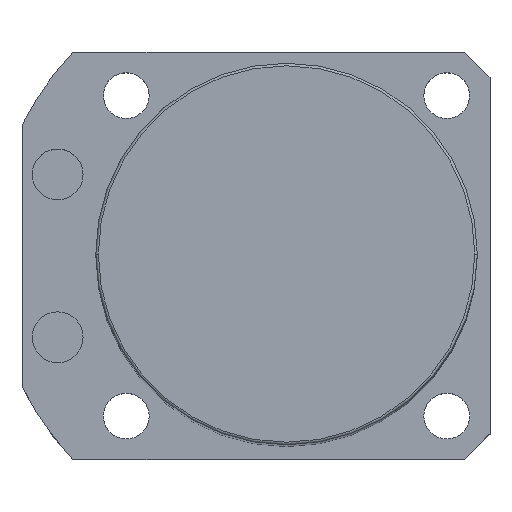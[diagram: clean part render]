
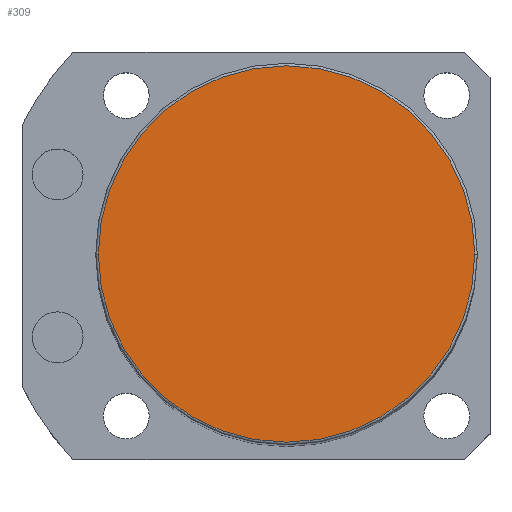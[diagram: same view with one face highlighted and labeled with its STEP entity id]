
A CAD part, top view. The second image highlights one B-rep face of the part: STEP entity #309.
In plain terms, the highlighted planar face has unit normal (0, 0, 1).
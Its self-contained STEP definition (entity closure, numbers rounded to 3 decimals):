
#171 = EDGE_CURVE ( 'NONE', #332, #1018, #874, .T. ) ;
#204 = CARTESIAN_POINT ( 'NONE',  ( 37., 0., 225.5 ) ) ;
#309 = ADVANCED_FACE ( 'NONE', ( #1692 ), #994, .T. ) ;
#321 = DIRECTION ( 'NONE',  ( 0., 0., 1. ) ) ;
#332 = VERTEX_POINT ( 'NONE', #654 ) ;
#468 = AXIS2_PLACEMENT_3D ( 'NONE', #804, #1814, #833 ) ;
#508 = CARTESIAN_POINT ( 'NONE',  ( 0., 0., 225.5 ) ) ;
#554 = AXIS2_PLACEMENT_3D ( 'NONE', #2564, #2373, #1976 ) ;
#654 = CARTESIAN_POINT ( 'NONE',  ( -37., 0., 225.5 ) ) ;
#804 = CARTESIAN_POINT ( 'NONE',  ( 0., 0., 225.5 ) ) ;
#833 = DIRECTION ( 'NONE',  ( 1., 0., 0. ) ) ;
#874 = CIRCLE ( 'NONE', #554, 37. ) ;
#994 = PLANE ( 'NONE',  #468 ) ;
#1018 = VERTEX_POINT ( 'NONE', #204 ) ;
#1027 = AXIS2_PLACEMENT_3D ( 'NONE', #508, #321, #1123 ) ;
#1123 = DIRECTION ( 'NONE',  ( 1., 0., 0. ) ) ;
#1149 = EDGE_LOOP ( 'NONE', ( #1802, #1380 ) ) ;
#1380 = ORIENTED_EDGE ( 'NONE', *, *, #171, .T. ) ;
#1692 = FACE_OUTER_BOUND ( 'NONE', #1149, .T. ) ;
#1765 = CIRCLE ( 'NONE', #1027, 37. ) ;
#1802 = ORIENTED_EDGE ( 'NONE', *, *, #2436, .T. ) ;
#1814 = DIRECTION ( 'NONE',  ( 0., 0., 1. ) ) ;
#1976 = DIRECTION ( 'NONE',  ( 1., 0., 0. ) ) ;
#2373 = DIRECTION ( 'NONE',  ( 0., 0., 1. ) ) ;
#2436 = EDGE_CURVE ( 'NONE', #1018, #332, #1765, .T. ) ;
#2564 = CARTESIAN_POINT ( 'NONE',  ( 0., 0., 225.5 ) ) ;
